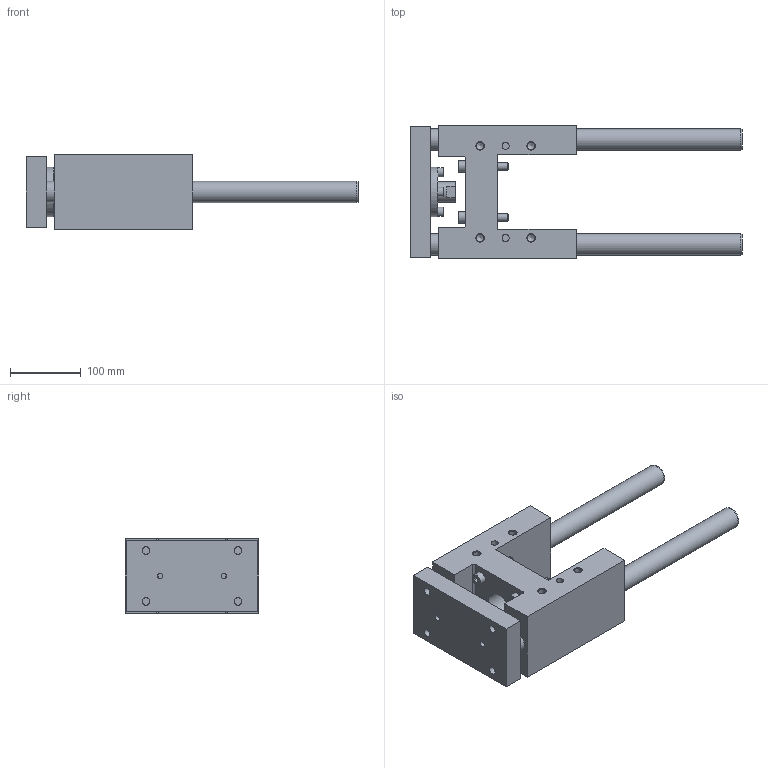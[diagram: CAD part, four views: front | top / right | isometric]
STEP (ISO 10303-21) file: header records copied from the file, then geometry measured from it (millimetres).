
FILE_DESCRIPTION( ( 'STEP AP214' ), '1' );
FILE_NAME( 'U:/Etudes/Top Solid/BIBLIO 3D AVM/TOP/PNEUMATIQUE/GUIDAGES/Type 32 (en H)/R_Renforcée/328R4130.step', '2005-05-27T09:10:59', ( ' ' ), ( ' ' ), 'XStep 1.0', ' ', ' ' );
FILE_SCHEMA( ( 'automotive_design' ) );
Length unit declared in the file: metre
Products named in the file (2): 1; 2
Bounding box: 469 x 189 x 105 mm (x, y, z)
Volume: 3056242.6 mm3; surface area: 369356.3 mm2
Topology: 2 solids, 7 shells, 209 faces, 472 edges, 313 vertices
Faces by surface type: plane 118, cylinder 70, cone 21
Full cylindrical faces by diameter (mm): 8 x10, 8.5 x4, 10 x10, 10.106 x12, 11 x8, 13 x4, 16 x4, 18 x4, 18.376 x2, 29 x1, 30 x4, 32 x1, 42 x1, 45 x2, 70 x1
Entity records: 7075 total; most frequent: CARTESIAN_POINT 1101, DIRECTION 894, ORIENTED_EDGE 690, EDGE_LOOP 362, AXIS2_PLACEMENT_3D 346, EDGE_CURVE 345, VERTEX_POINT 281, FACE_OUTER_BOUND 277
